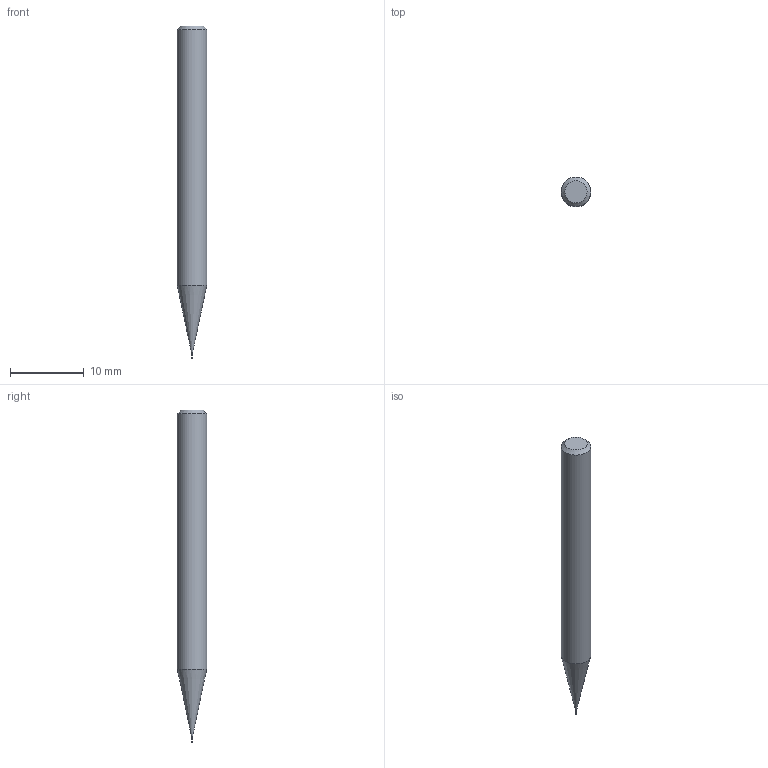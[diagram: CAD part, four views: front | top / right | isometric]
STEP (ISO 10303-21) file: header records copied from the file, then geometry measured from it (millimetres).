
FILE_DESCRIPTION((''),'2;1');
FILE_NAME('C:\Users\nsx150\AppData\Local\Temp\Mastercam 2021\3SYKECWX22\TEMP.step','2021-04-22T09:44:11',(''),(''),'STEP Write','Mastercam 2021 ... CNC Software, Inc.','');
FILE_SCHEMA(('AUTOMOTIVE_DESIGN'));
Length unit declared in the file: millimetre
Products named in the file (1): None
Bounding box: 4 x 4 x 45 mm (x, y, z)
Volume: 479.8 mm3; surface area: 511.1 mm2
Topology: 2 solids, 2 shells, 10 faces, 14 edges, 8 vertices
Faces by surface type: plane 4, cylinder 3, cone 2, torus 1
Full cylindrical faces by diameter (mm): 0.135 x1, 0.15 x1, 4 x1
Entity records: 232 total; most frequent: DIRECTION 40, CARTESIAN_POINT 28, AXIS2_PLACEMENT_3D 20, ORIENTED_EDGE 16, EDGE_LOOP 16, STYLED_ITEM 13, ADVANCED_FACE 10, FACE_BOUND 10
